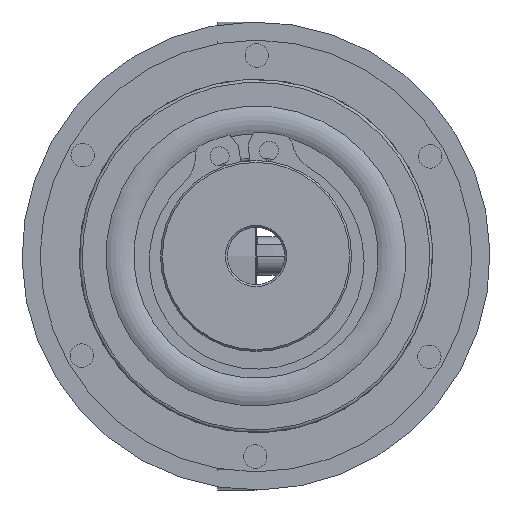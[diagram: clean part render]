
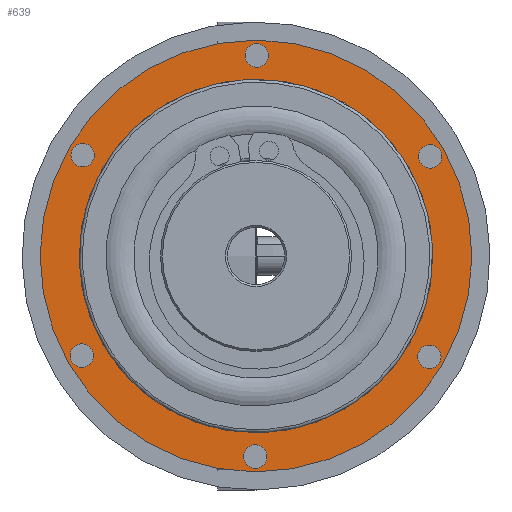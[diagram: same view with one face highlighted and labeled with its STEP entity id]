
A CAD part, left-side view. The second image highlights one B-rep face of the part: STEP entity #639.
In plain terms, the highlighted planar face has unit normal (-1, 0, 0).
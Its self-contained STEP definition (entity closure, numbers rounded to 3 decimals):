
#639 = ADVANCED_FACE( '', ( #1090, #1091, #1092, #1093, #1094, #1095, #1096, #1097 ), #1098, .T. );
#1090 = FACE_OUTER_BOUND( '', #1499, .T. );
#1091 = FACE_BOUND( '', #1500, .T. );
#1092 = FACE_BOUND( '', #1501, .T. );
#1093 = FACE_BOUND( '', #1502, .T. );
#1094 = FACE_BOUND( '', #1503, .T. );
#1095 = FACE_BOUND( '', #1504, .T. );
#1096 = FACE_BOUND( '', #1505, .T. );
#1097 = FACE_BOUND( '', #1506, .T. );
#1098 = PLANE( '', #1507 );
#1499 = EDGE_LOOP( '', ( #2065 ) );
#1500 = EDGE_LOOP( '', ( #2066 ) );
#1501 = EDGE_LOOP( '', ( #2067 ) );
#1502 = EDGE_LOOP( '', ( #2068 ) );
#1503 = EDGE_LOOP( '', ( #2069 ) );
#1504 = EDGE_LOOP( '', ( #2070 ) );
#1505 = EDGE_LOOP( '', ( #2071 ) );
#1506 = EDGE_LOOP( '', ( #2072 ) );
#1507 = AXIS2_PLACEMENT_3D( '', #2073, #2074, #2075 );
#2065 = ORIENTED_EDGE( '', *, *, #2885, .T. );
#2066 = ORIENTED_EDGE( '', *, *, #2886, .T. );
#2067 = ORIENTED_EDGE( '', *, *, #2887, .T. );
#2068 = ORIENTED_EDGE( '', *, *, #2888, .T. );
#2069 = ORIENTED_EDGE( '', *, *, #2889, .T. );
#2070 = ORIENTED_EDGE( '', *, *, #2890, .T. );
#2071 = ORIENTED_EDGE( '', *, *, #2891, .T. );
#2072 = ORIENTED_EDGE( '', *, *, #2892, .F. );
#2073 = CARTESIAN_POINT( '', ( 0., 18.5, 0. ) );
#2074 = DIRECTION( '', ( -1., 0., 0. ) );
#2075 = DIRECTION( '', ( 0., 0., 1. ) );
#2885 = EDGE_CURVE( '', #3156, #3156, #3157, .T. );
#2886 = EDGE_CURVE( '', #3158, #3158, #3159, .T. );
#2887 = EDGE_CURVE( '', #3160, #3160, #3161, .T. );
#2888 = EDGE_CURVE( '', #3162, #3162, #3163, .T. );
#2889 = EDGE_CURVE( '', #3164, #3164, #3165, .T. );
#2890 = EDGE_CURVE( '', #3166, #3166, #3167, .T. );
#2891 = EDGE_CURVE( '', #3168, #3168, #3169, .T. );
#2892 = EDGE_CURVE( '', #3170, #3170, #3171, .T. );
#3156 = VERTEX_POINT( '', #3436 );
#3157 = CIRCLE( '', #3437, 22.6 );
#3158 = VERTEX_POINT( '', #3438 );
#3159 = CIRCLE( '', #3439, 1.23 );
#3160 = VERTEX_POINT( '', #3440 );
#3161 = CIRCLE( '', #3441, 1.23 );
#3162 = VERTEX_POINT( '', #3442 );
#3163 = CIRCLE( '', #3443, 1.23 );
#3164 = VERTEX_POINT( '', #3444 );
#3165 = CIRCLE( '', #3445, 1.23 );
#3166 = VERTEX_POINT( '', #3446 );
#3167 = CIRCLE( '', #3447, 1.23 );
#3168 = VERTEX_POINT( '', #3448 );
#3169 = CIRCLE( '', #3449, 1.23 );
#3170 = VERTEX_POINT( '', #3450 );
#3171 = CIRCLE( '', #3451, 18.5 );
#3436 = CARTESIAN_POINT( '', ( 0., 0., 22.6 ) );
#3437 = AXIS2_PLACEMENT_3D( '', #3866, #3867, #3868 );
#3438 = CARTESIAN_POINT( '', ( 0., 11.565, -17.572 ) );
#3439 = AXIS2_PLACEMENT_3D( '', #3869, #3870, #3871 );
#3440 = CARTESIAN_POINT( '', ( 0., -9.435, -18.801 ) );
#3441 = AXIS2_PLACEMENT_3D( '', #3872, #3873, #3874 );
#3442 = CARTESIAN_POINT( '', ( 0., -21., -1.23 ) );
#3443 = AXIS2_PLACEMENT_3D( '', #3875, #3876, #3877 );
#3444 = CARTESIAN_POINT( '', ( 0., -11.565, 17.572 ) );
#3445 = AXIS2_PLACEMENT_3D( '', #3878, #3879, #3880 );
#3446 = CARTESIAN_POINT( '', ( 0., 9.435, 18.801 ) );
#3447 = AXIS2_PLACEMENT_3D( '', #3881, #3882, #3883 );
#3448 = CARTESIAN_POINT( '', ( 0., 21., 1.23 ) );
#3449 = AXIS2_PLACEMENT_3D( '', #3884, #3885, #3886 );
#3450 = CARTESIAN_POINT( '', ( 0., 0., 18.5 ) );
#3451 = AXIS2_PLACEMENT_3D( '', #3887, #3888, #3889 );
#3866 = CARTESIAN_POINT( '', ( 0., 0., 0. ) );
#3867 = DIRECTION( '', ( -1., 0., 0. ) );
#3868 = DIRECTION( '', ( 0., 0., 1. ) );
#3869 = CARTESIAN_POINT( '', ( 0., 10.5, -18.187 ) );
#3870 = DIRECTION( '', ( 1., 0., 0. ) );
#3871 = DIRECTION( '', ( 0., 0.866, 0.5 ) );
#3872 = CARTESIAN_POINT( '', ( 0., -10.5, -18.187 ) );
#3873 = DIRECTION( '', ( 1., 0., 0. ) );
#3874 = DIRECTION( '', ( 0., 0.866, -0.5 ) );
#3875 = CARTESIAN_POINT( '', ( 0., -21., 0. ) );
#3876 = DIRECTION( '', ( 1., 0., 0. ) );
#3877 = DIRECTION( '', ( 0., 0., -1. ) );
#3878 = CARTESIAN_POINT( '', ( 0., -10.5, 18.187 ) );
#3879 = DIRECTION( '', ( 1., 0., 0. ) );
#3880 = DIRECTION( '', ( 0., -0.866, -0.5 ) );
#3881 = CARTESIAN_POINT( '', ( 0., 10.5, 18.187 ) );
#3882 = DIRECTION( '', ( 1., 0., 0. ) );
#3883 = DIRECTION( '', ( 0., -0.866, 0.5 ) );
#3884 = CARTESIAN_POINT( '', ( 0., 21., 0. ) );
#3885 = DIRECTION( '', ( 1., 0., 0. ) );
#3886 = DIRECTION( '', ( 0., 0., 1. ) );
#3887 = CARTESIAN_POINT( '', ( 0., 0., 0. ) );
#3888 = DIRECTION( '', ( -1., 0., 0. ) );
#3889 = DIRECTION( '', ( 0., 0., 1. ) );
